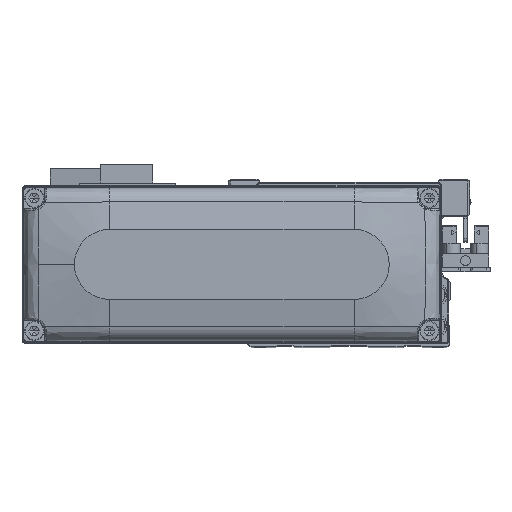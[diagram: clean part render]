
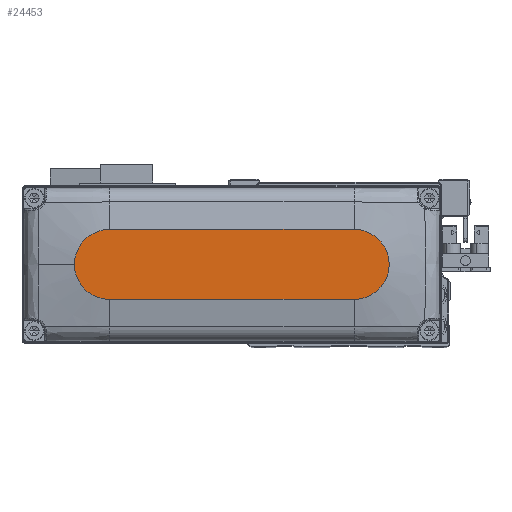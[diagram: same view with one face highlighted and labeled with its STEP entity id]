
A CAD part, top view. The second image highlights one B-rep face of the part: STEP entity #24453.
In plain terms, the highlighted planar face has unit normal (0, 0, 1).
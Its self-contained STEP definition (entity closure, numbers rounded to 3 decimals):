
#1030 = DIRECTION ( 'NONE',  ( 0., 0., 1. ) ) ;
#1315 = VERTEX_POINT ( 'NONE', #24586 ) ;
#2004 = CARTESIAN_POINT ( 'NONE',  ( -35., 0., 28. ) ) ;
#2418 = CIRCLE ( 'NONE', #22593, 10. ) ;
#2955 = ORIENTED_EDGE ( 'NONE', *, *, #18252, .T. ) ;
#3740 = FACE_OUTER_BOUND ( 'NONE', #18903, .T. ) ;
#3985 = CIRCLE ( 'NONE', #28818, 10. ) ;
#4896 = EDGE_CURVE ( 'NONE', #1315, #13041, #6975, .T. ) ;
#5425 = DIRECTION ( 'NONE',  ( 0., 0., 1. ) ) ;
#5674 = CARTESIAN_POINT ( 'NONE',  ( 35., 0., 28. ) ) ;
#6496 = DIRECTION ( 'NONE',  ( -1., 0., 0. ) ) ;
#6975 = CIRCLE ( 'NONE', #27170, 10. ) ;
#10093 = CARTESIAN_POINT ( 'NONE',  ( -35., -10., 28. ) ) ;
#10346 = DIRECTION ( 'NONE',  ( 1., 0., 0. ) ) ;
#12032 = DIRECTION ( 'NONE',  ( 1., 0., 0. ) ) ;
#12993 = DIRECTION ( 'NONE',  ( 0., 0., 1. ) ) ;
#13041 = VERTEX_POINT ( 'NONE', #34259 ) ;
#14024 = VERTEX_POINT ( 'NONE', #21241 ) ;
#14738 = PLANE ( 'NONE',  #23009 ) ;
#14985 = ORIENTED_EDGE ( 'NONE', *, *, #4896, .T. ) ;
#16427 = DIRECTION ( 'NONE',  ( 1., 0., 0. ) ) ;
#16674 = DIRECTION ( 'NONE',  ( 0., 0., 1. ) ) ;
#16972 = VERTEX_POINT ( 'NONE', #27284 ) ;
#18252 = EDGE_CURVE ( 'NONE', #16972, #25420, #3985, .T. ) ;
#18903 = EDGE_LOOP ( 'NONE', ( #19500, #2955, #24905, #14985, #35718 ) ) ;
#19500 = ORIENTED_EDGE ( 'NONE', *, *, #24002, .T. ) ;
#20188 = LINE ( 'NONE', #31263, #29358 ) ;
#21241 = CARTESIAN_POINT ( 'NONE',  ( 35., 10., 28. ) ) ;
#22593 = AXIS2_PLACEMENT_3D ( 'NONE', #5674, #16674, #27737 ) ;
#23009 = AXIS2_PLACEMENT_3D ( 'NONE', #25776, #1030, #12032 ) ;
#24002 = EDGE_CURVE ( 'NONE', #14024, #16972, #20188, .T. ) ;
#24018 = DIRECTION ( 'NONE',  ( 1., 0., 0. ) ) ;
#24083 = LINE ( 'NONE', #35140, #31807 ) ;
#24453 = ADVANCED_FACE ( 'NONE', ( #3740 ), #14738, .T. ) ;
#24586 = CARTESIAN_POINT ( 'NONE',  ( 35., -10., 28. ) ) ;
#24905 = ORIENTED_EDGE ( 'NONE', *, *, #26408, .T. ) ;
#25420 = VERTEX_POINT ( 'NONE', #10093 ) ;
#25776 = CARTESIAN_POINT ( 'NONE',  ( 0., 0., 28. ) ) ;
#26408 = EDGE_CURVE ( 'NONE', #25420, #1315, #24083, .T. ) ;
#27170 = AXIS2_PLACEMENT_3D ( 'NONE', #30208, #5425, #16427 ) ;
#27284 = CARTESIAN_POINT ( 'NONE',  ( -35., 10., 28. ) ) ;
#27737 = DIRECTION ( 'NONE',  ( 1., 0., 0. ) ) ;
#28818 = AXIS2_PLACEMENT_3D ( 'NONE', #2004, #12993, #24018 ) ;
#29358 = VECTOR ( 'NONE', #6496, 1000. ) ;
#30208 = CARTESIAN_POINT ( 'NONE',  ( 35., 0., 28. ) ) ;
#31263 = CARTESIAN_POINT ( 'NONE',  ( -35., 10., 28. ) ) ;
#31807 = VECTOR ( 'NONE', #10346, 1000. ) ;
#34259 = CARTESIAN_POINT ( 'NONE',  ( 45., 0., 28. ) ) ;
#34367 = EDGE_CURVE ( 'NONE', #13041, #14024, #2418, .T. ) ;
#35140 = CARTESIAN_POINT ( 'NONE',  ( -35., -10., 28. ) ) ;
#35718 = ORIENTED_EDGE ( 'NONE', *, *, #34367, .T. ) ;
